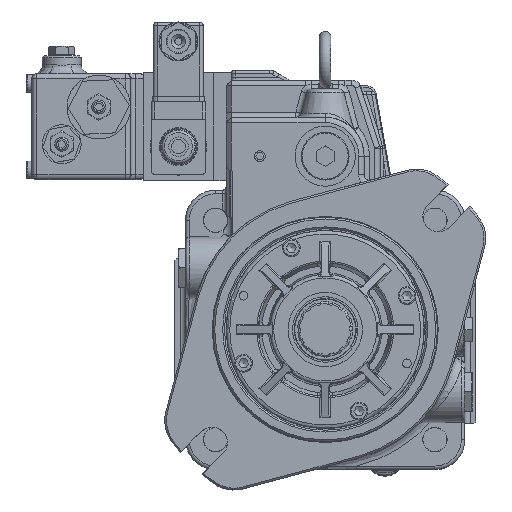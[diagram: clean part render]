
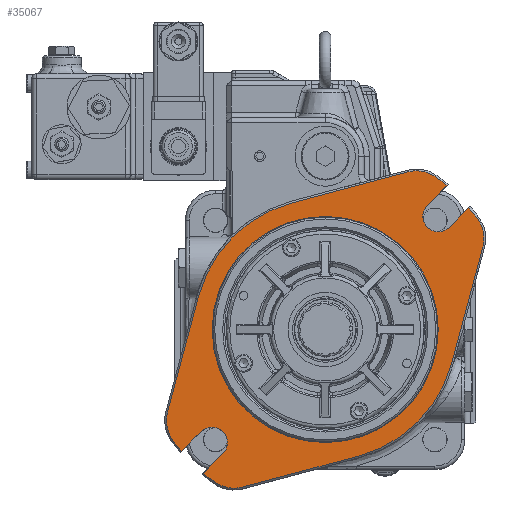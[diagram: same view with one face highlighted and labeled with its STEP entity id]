
A CAD part, top view. The second image highlights one B-rep face of the part: STEP entity #35067.
In plain terms, the highlighted planar face has unit normal (0, 0, 1).
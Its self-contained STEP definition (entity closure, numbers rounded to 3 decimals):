
#24410=CARTESIAN_POINT('',(89.092,46.582,19.));
#24411=VERTEX_POINT('',#24410);
#24418=CARTESIAN_POINT('',(71.479,-19.153,19.));
#24419=VERTEX_POINT('',#24418);
#24420=CARTESIAN_POINT('',(89.092,46.582,19.));
#24421=DIRECTION('',(-0.259,-0.966,0.));
#24422=VECTOR('',#24421,68.053);
#24423=LINE('',#24420,#24422);
#24424=EDGE_CURVE('',#24411,#24419,#24423,.T.);
#34206=CARTESIAN_POINT('',(68.865,81.239,19.));
#34207=VERTEX_POINT('',#34206);
#34221=CARTESIAN_POINT('',(57.806,70.18,19.));
#34222=VERTEX_POINT('',#34221);
#34223=CARTESIAN_POINT('',(68.865,81.239,19.));
#34224=DIRECTION('',(-0.707,-0.707,0.));
#34225=VECTOR('',#34224,15.64);
#34226=LINE('',#34223,#34225);
#34227=EDGE_CURVE('',#34207,#34222,#34226,.T.);
#34490=CARTESIAN_POINT('',(-70.18,-57.806,19.));
#34491=VERTEX_POINT('',#34490);
#34498=CARTESIAN_POINT('',(-81.239,-68.865,19.));
#34499=VERTEX_POINT('',#34498);
#34500=CARTESIAN_POINT('',(-70.18,-57.806,19.));
#34501=DIRECTION('',(-0.707,-0.707,0.));
#34502=VECTOR('',#34501,15.64);
#34503=LINE('',#34500,#34502);
#34504=EDGE_CURVE('',#34491,#34499,#34503,.T.);
#34731=CARTESIAN_POINT('',(-68.865,-81.239,19.));
#34732=VERTEX_POINT('',#34731);
#34746=CARTESIAN_POINT('',(-57.806,-70.18,19.0));
#34747=VERTEX_POINT('',#34746);
#34748=CARTESIAN_POINT('',(-68.865,-81.239,19.));
#34749=DIRECTION('',(0.707,0.707,0.));
#34750=VECTOR('',#34749,15.64);
#34751=LINE('',#34748,#34750);
#34752=EDGE_CURVE('',#34732,#34747,#34751,.T.);
#34771=CARTESIAN_POINT('',(81.239,68.865,19.));
#34772=VERTEX_POINT('',#34771);
#34786=CARTESIAN_POINT('',(86.1,62.682,19.));
#34787=VERTEX_POINT('',#34786);
#34788=CARTESIAN_POINT('',(0.,0.,19.));
#34789=DIRECTION('',(0.,0.,-1.0));
#34790=DIRECTION('',(0.808,0.589,0.));
#34791=AXIS2_PLACEMENT_3D('',#34788,#34789,#34790);
#34792=CIRCLE('',#34791,106.5);
#34793=EDGE_CURVE('',#34772,#34787,#34792,.T.);
#34827=CARTESIAN_POINT('',(70.739,51.499,19.));
#34828=DIRECTION('',(0.,0.,-1.));
#34829=DIRECTION('',(0.966,-0.259,0.));
#34830=AXIS2_PLACEMENT_3D('',#34827,#34828,#34829);
#34831=CIRCLE('',#34830,19.);
#34832=EDGE_CURVE('',#34787,#24411,#34831,.T.);
#34842=CARTESIAN_POINT('',(19.153,-71.479,19.));
#34843=VERTEX_POINT('',#34842);
#34860=CARTESIAN_POINT('',(0.,0.,19.));
#34861=DIRECTION('',(0.,0.,-1.0));
#34862=DIRECTION('',(0.259,-0.966,0.));
#34863=AXIS2_PLACEMENT_3D('',#34860,#34861,#34862);
#34864=CIRCLE('',#34863,74.);
#34865=EDGE_CURVE('',#24419,#34843,#34864,.T.);
#34875=CARTESIAN_POINT('',(-46.582,-89.092,19.));
#34876=VERTEX_POINT('',#34875);
#34892=CARTESIAN_POINT('',(19.153,-71.479,19.));
#34893=DIRECTION('',(-0.966,-0.259,0.));
#34894=VECTOR('',#34893,68.053);
#34895=LINE('',#34892,#34894);
#34896=EDGE_CURVE('',#34843,#34876,#34895,.T.);
#34906=CARTESIAN_POINT('',(-62.682,-86.1,19.0));
#34907=VERTEX_POINT('',#34906);
#34924=CARTESIAN_POINT('',(-51.499,-70.739,19.));
#34925=DIRECTION('',(0.,0.,-1.0));
#34926=DIRECTION('',(-0.589,-0.808,0.));
#34927=AXIS2_PLACEMENT_3D('',#34924,#34925,#34926);
#34928=CIRCLE('',#34927,19.);
#34929=EDGE_CURVE('',#34876,#34907,#34928,.T.);
#34948=CARTESIAN_POINT('',(0.,0.,19.));
#34949=DIRECTION('',(0.,0.,-1.0));
#34950=DIRECTION('',(-0.647,-0.762,0.));
#34951=AXIS2_PLACEMENT_3D('',#34948,#34949,#34950);
#34952=CIRCLE('',#34951,106.5);
#34953=EDGE_CURVE('',#34907,#34732,#34952,.T.);
#34958=CARTESIAN_POINT('',(0.,0.,19.));
#34959=DIRECTION('',(0.0,0.0,1.0));
#34960=DIRECTION('',(1.0,0.0,0.0));
#34961=AXIS2_PLACEMENT_3D('',#34958,#34959,#34960);
#34962=PLANE('',#34961);
#34963=ORIENTED_EDGE('',*,*,#34953,.F.);
#34964=ORIENTED_EDGE('',*,*,#34929,.F.);
#34965=ORIENTED_EDGE('',*,*,#34896,.F.);
#34966=ORIENTED_EDGE('',*,*,#34865,.F.);
#34967=ORIENTED_EDGE('',*,*,#24424,.F.);
#34968=ORIENTED_EDGE('',*,*,#34832,.F.);
#34969=ORIENTED_EDGE('',*,*,#34793,.F.);
#34970=CARTESIAN_POINT('',(70.18,57.806,19.));
#34971=VERTEX_POINT('',#34970);
#34972=CARTESIAN_POINT('',(70.18,57.806,19.));
#34973=DIRECTION('',(0.707,0.707,0.));
#34974=VECTOR('',#34973,15.64);
#34975=LINE('',#34972,#34974);
#34976=EDGE_CURVE('',#34971,#34772,#34975,.T.);
#34977=ORIENTED_EDGE('',*,*,#34976,.F.);
#34978=CARTESIAN_POINT('',(63.993,63.993,19.));
#34979=DIRECTION('',(0.,0.,1.));
#34980=DIRECTION('',(-0.707,0.707,0.));
#34981=AXIS2_PLACEMENT_3D('',#34978,#34979,#34980);
#34982=CIRCLE('',#34981,8.75);
#34983=EDGE_CURVE('',#34222,#34971,#34982,.T.);
#34984=ORIENTED_EDGE('',*,*,#34983,.F.);
#34985=ORIENTED_EDGE('',*,*,#34227,.F.);
#34986=CARTESIAN_POINT('',(62.682,86.1,19.));
#34987=VERTEX_POINT('',#34986);
#34988=CARTESIAN_POINT('',(0.,0.,19.));
#34989=DIRECTION('',(0.,0.,-1.0));
#34990=DIRECTION('',(0.647,0.762,0.));
#34991=AXIS2_PLACEMENT_3D('',#34988,#34989,#34990);
#34992=CIRCLE('',#34991,106.5);
#34993=EDGE_CURVE('',#34987,#34207,#34992,.T.);
#34994=ORIENTED_EDGE('',*,*,#34993,.F.);
#34995=CARTESIAN_POINT('',(46.582,89.092,19.));
#34996=VERTEX_POINT('',#34995);
#34997=CARTESIAN_POINT('',(51.499,70.739,19.));
#34998=DIRECTION('',(0.,0.,-1.0));
#34999=DIRECTION('',(0.589,0.808,0.));
#35000=AXIS2_PLACEMENT_3D('',#34997,#34998,#34999);
#35001=CIRCLE('',#35000,19.);
#35002=EDGE_CURVE('',#34996,#34987,#35001,.T.);
#35003=ORIENTED_EDGE('',*,*,#35002,.F.);
#35004=CARTESIAN_POINT('',(-19.153,71.479,19.));
#35005=VERTEX_POINT('',#35004);
#35006=CARTESIAN_POINT('',(-19.153,71.479,19.));
#35007=DIRECTION('',(0.966,0.259,0.));
#35008=VECTOR('',#35007,68.053);
#35009=LINE('',#35006,#35008);
#35010=EDGE_CURVE('',#35005,#34996,#35009,.T.);
#35011=ORIENTED_EDGE('',*,*,#35010,.F.);
#35012=CARTESIAN_POINT('',(-71.479,19.153,19.));
#35013=VERTEX_POINT('',#35012);
#35014=CARTESIAN_POINT('',(0.,0.,19.));
#35015=DIRECTION('',(0.,0.,-1.0));
#35016=DIRECTION('',(-0.259,0.966,0.));
#35017=AXIS2_PLACEMENT_3D('',#35014,#35015,#35016);
#35018=CIRCLE('',#35017,74.);
#35019=EDGE_CURVE('',#35013,#35005,#35018,.T.);
#35020=ORIENTED_EDGE('',*,*,#35019,.F.);
#35021=CARTESIAN_POINT('',(-89.092,-46.582,19.));
#35022=VERTEX_POINT('',#35021);
#35023=CARTESIAN_POINT('',(-89.092,-46.582,19.));
#35024=DIRECTION('',(0.259,0.966,0.));
#35025=VECTOR('',#35024,68.053);
#35026=LINE('',#35023,#35025);
#35027=EDGE_CURVE('',#35022,#35013,#35026,.T.);
#35028=ORIENTED_EDGE('',*,*,#35027,.F.);
#35029=CARTESIAN_POINT('',(-86.1,-62.682,19.));
#35030=VERTEX_POINT('',#35029);
#35031=CARTESIAN_POINT('',(-70.739,-51.499,19.));
#35032=DIRECTION('',(0.,0.,-1.));
#35033=DIRECTION('',(-0.966,0.259,0.));
#35034=AXIS2_PLACEMENT_3D('',#35031,#35032,#35033);
#35035=CIRCLE('',#35034,19.);
#35036=EDGE_CURVE('',#35030,#35022,#35035,.T.);
#35037=ORIENTED_EDGE('',*,*,#35036,.F.);
#35038=CARTESIAN_POINT('',(0.,0.,19.));
#35039=DIRECTION('',(0.,0.,-1.0));
#35040=DIRECTION('',(-0.808,-0.589,0.));
#35041=AXIS2_PLACEMENT_3D('',#35038,#35039,#35040);
#35042=CIRCLE('',#35041,106.5);
#35043=EDGE_CURVE('',#34499,#35030,#35042,.T.);
#35044=ORIENTED_EDGE('',*,*,#35043,.F.);
#35045=ORIENTED_EDGE('',*,*,#34504,.F.);
#35046=CARTESIAN_POINT('',(-63.993,-63.993,19.0));
#35047=DIRECTION('',(0.,0.,1.));
#35048=DIRECTION('',(0.707,-0.707,0.));
#35049=AXIS2_PLACEMENT_3D('',#35046,#35047,#35048);
#35050=CIRCLE('',#35049,8.75);
#35051=EDGE_CURVE('',#34747,#34491,#35050,.T.);
#35052=ORIENTED_EDGE('',*,*,#35051,.F.);
#35053=ORIENTED_EDGE('',*,*,#34752,.F.);
#35054=EDGE_LOOP('',(#34963,#34964,#34965,#34966,#34967,#34968,#34969,#34977,#34984,#34985,#34994,#35003,#35011,#35020,#35028,#35037,#35044,#35045,#35052,#35053));
#35055=FACE_OUTER_BOUND('',#35054,.T.);
#35056=CARTESIAN_POINT('',(63.9,0.,19.));
#35057=VERTEX_POINT('',#35056);
#35058=CARTESIAN_POINT('',(0.,0.,19.));
#35059=DIRECTION('',(0.0,0.0,1.0));
#35060=DIRECTION('',(-1.0,0.0,0.0));
#35061=AXIS2_PLACEMENT_3D('',#35058,#35059,#35060);
#35062=CIRCLE('',#35061,63.9);
#35063=EDGE_CURVE('',#35057,#35057,#35062,.T.);
#35064=ORIENTED_EDGE('',*,*,#35063,.F.);
#35065=EDGE_LOOP('',(#35064));
#35066=FACE_BOUND('',#35065,.T.);
#35067=ADVANCED_FACE('',(#35055,#35066),#34962,.T.);
